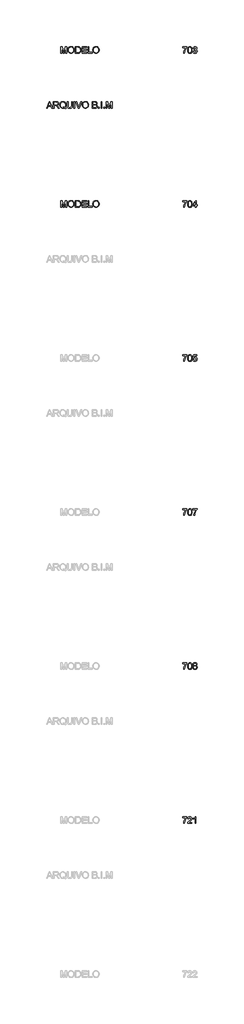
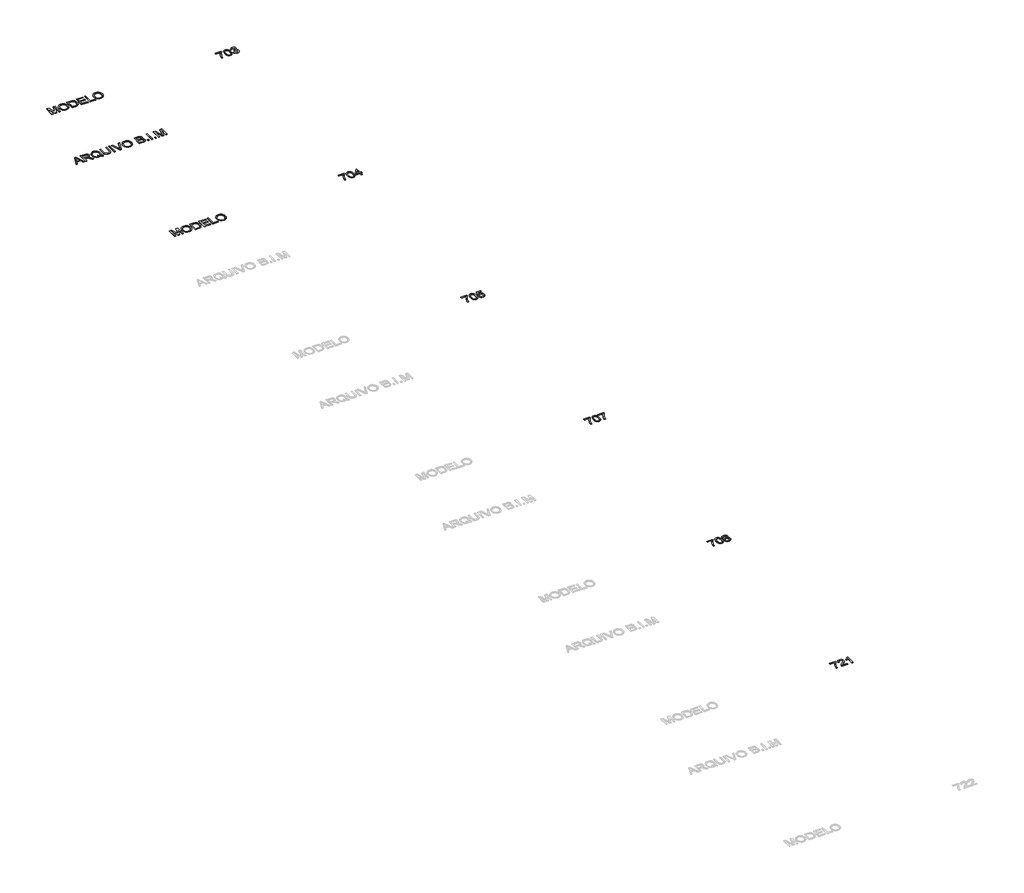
# One storey, part 18 of 19: 9 proxies.
"""IFC4 building model written with IfcOpenShell, lengths in millimetres."""

from ifc_helpers import new_model, si_unit, origin, origin_with_axes, place, context, project, spatial, polyline, outline, extrude, element, save

model = new_model("IFC4")

# Units and contexts
model_context = context("Model", 3, world=origin())
ifc_project = project(units=[si_unit("LENGTHUNIT", "METRE", prefix="MILLI")], contexts=[model_context])

# Site, building, storey
site = spatial("IfcSite", under=ifc_project)
building = spatial("IfcBuilding", under=site)
storey = spatial("IfcBuildingStorey", under=building, Name="Marelli - Linha ACTIVE - Planta Baixa", Elevation=0.0)

# Proxies
placement = place(None, origin())
element("IfcBuildingElementProxy", 1, Name="300mm Arial", ObjectType="300mm Arial", at=placement, inside=storey, context=model_context, shape_type="SweptSolid", body=[
    extrude(outline(polyline([(574.6453917, -25521.5773955), (574.6453917, -25483.9062792), (772.4187523, -25483.9062792), (772.4187523, -25514.3669084), (744.2297944, -25550.0422648), (716.316748, -25595.4113119), (691.6962455, -25646.3353771), (673.3849192, -25698.6757879), (664.4085985, -25737.8368263), (659.4054034, -25780.5663201), (621.7342871, -25780.5663201), (625.8085802, -25741.7363755), (636.7070843, -25695.5855792), (654.1354938, -25646.6664709), (677.7995031, -25599.5315902), (705.427441, -25556.9216582), (734.747636, -25521.5773955), (574.6453917, -25521.5773955)])), origin_with_axes(), (0.0, 0.0, 1.0), 10.0),
    extrude(outline(polyline([(998.4454501, -25742.8952038), (998.4454501, -25780.5663201), (800.6720895, -25780.5663201), (804.7187915, -25754.5938512), (814.0078118, -25734.2959621), (827.6010516, -25714.6050783), (847.2643442, -25693.9944896), (874.7635234, -25670.9374855), (915.4144838, -25634.8298677), (939.8050601, -25608.1768171), (952.0003482, -25586.5453558), (956.0654443, -25565.5025057), (952.2302745, -25546.6393564), (940.7247651, -25530.9583863), (923.0388382, -25520.390976), (900.6624158, -25516.8685059), (877.1639534, -25520.3082026), (858.9078094, -25530.6272925), (847.1263885, -25547.0164354), (843.0520954, -25568.6662908), (805.3809791, -25563.9574013), (814.5136496, -25527.5186897), (823.0600082, -25512.9827524), (834.2597157, -25500.9024273), (847.8552547, -25491.4064733), (863.5891077, -25484.623649), (901.4717562, -25479.1973896), (921.66158, -25480.7057058), (939.6303162, -25485.2306543), (955.3779648, -25492.7722352), (968.9045259, -25503.3304485), (979.7685411, -25516.1235449), (987.5285519, -25530.3697751), (992.1845584, -25546.0691393), (993.7365606, -25563.2216373), (992.0626975, -25581.238658), (987.0411083, -25598.942979), (978.1291669, -25616.9508027), (964.7842476, -25635.8783314), (943.5114712, -25658.4754829), (910.8159589, -25687.4921753), (867.4794598, -25723.7285518), (850.4833117, -25742.8952038), (998.4454501, -25742.8952038)])), origin_with_axes(), (0.0, 0.0, 1.0), 10.0),
    extrude(outline(polyline([(1177.3832526, -25780.5663201), (1139.7121363, -25780.5663201), (1139.7121363, -25545.7104543), (1104.0275827, -25571.1311002), (1064.3699037, -25590.1505994), (1064.3699037, -25554.5396222), (1093.9568131, -25538.4447849), (1119.5889911, -25519.2965271), (1139.7949097, -25498.9342587), (1153.1030409, -25479.1973896), (1177.3832526, -25479.1973896), (1177.3832526, -25780.5663201)])), origin_with_axes(), (0.0, 0.0, 1.0), 10.0),
])
element("IfcBuildingElementProxy", 2, Name="300mm Arial", ObjectType="300mm Arial", at=placement, inside=storey, context=model_context, shape_type="SweptSolid", body=[
    extrude(outline(polyline([(574.6453917, -18521.5773955), (574.6453917, -18483.9062792), (772.4187523, -18483.9062792), (772.4187523, -18514.3669084), (744.2297944, -18550.0422648), (716.316748, -18595.4113119), (691.6962455, -18646.3353771), (673.3849192, -18698.6757879), (664.4085985, -18737.8368263), (659.4054034, -18780.5663201), (621.7342871, -18780.5663201), (625.8085802, -18741.7363755), (636.7070843, -18695.5855792), (654.1354938, -18646.6664709), (677.7995031, -18599.5315902), (705.427441, -18556.9216582), (734.747636, -18521.5773955), (574.6453917, -18521.5773955)])), origin_with_axes(), (0.0, 0.0, 1.0), 10.0),
    extrude(outline(polyline([(805.3809791, -18632.309876), (808.1492911, -18584.0713494), (816.4542271, -18545.6000897), (830.2130137, -18516.3074859), (849.3428775, -18495.6049266), (873.9817741, -18483.2992739), (904.2676594, -18479.1973896), (927.4810133, -18481.6254108), (948.266346, -18488.9094743), (965.6487703, -18500.7644716), (978.6533988, -18516.9052941), (988.4758481, -18537.1939862), (996.3117346, -18561.4925919), (1001.4436884, -18592.3486943), (1003.1543397, -18632.309876), (1000.4136188, -18680.2724911), (992.1914562, -18718.6517803), (978.515443, -18747.9719753), (959.4131704, -18768.757308), (934.7190915, -18781.1457342), (904.2676594, -18785.2752096), (883.5191148, -18783.4817849), (865.1250151, -18778.1015107), (849.0853601, -18769.1343871), (835.4001499, -18756.580414), (822.2667626, -18733.8866934), (812.8857718, -18705.6103636), (807.2571772, -18671.7514244), (805.3809791, -18632.309876)]), holes=[polyline([(843.0520954, -18632.2362996), (847.4666793, -18691.492892), (852.9849092, -18711.7608907), (860.7104311, -18725.788691), (880.4289061, -18742.1502427), (904.2676594, -18747.6040933), (928.1064127, -18742.1318486), (947.8248876, -18725.7151146), (955.5504095, -18711.6643216), (961.0686394, -18691.4009215), (965.4832234, -18632.2362996), (961.2157922, -18574.3132795), (955.8815033, -18554.1119594), (948.4134988, -18539.750766), (928.731812, -18522.589071), (903.826201, -18516.8685059), (880.2449651, -18521.9084893), (861.2990423, -18537.0284393), (853.316003, -18552.6634241), (847.6138321, -18573.7430624), (843.0520954, -18632.2362996)])]), origin_with_axes(), (0.0, 0.0, 1.0), 10.0),
    extrude(outline(polyline([(1091.0045601, -18614.5779638), (1070.8354297, -18604.64515), (1056.68117, -18591.180669), (1048.3210516, -18574.4604323), (1045.5343455, -18554.7603514), (1047.0518587, -18539.3966796), (1051.6043984, -18525.3113977), (1059.1919646, -18512.5045058), (1069.8145572, -18500.9760037), (1082.96174, -18491.4478601), (1098.1230767, -18484.6420431), (1134.4882119, -18479.1973896), (1171.0740764, -18484.7708018), (1186.40096, -18491.7375671), (1199.7504779, -18501.4910385), (1210.5662086, -18513.2448683), (1218.2917304, -18526.2127086), (1222.9270436, -18540.3945595), (1224.472148, -18555.790421), (1221.7222301, -18574.8559054), (1213.4724763, -18591.2910335), (1199.6309162, -18604.6727411), (1180.1055793, -18614.5779638), (1203.2913421, -18626.5249316), (1220.1679286, -18644.1188881), (1230.4594274, -18666.5137045), (1233.889927, -18692.8632524), (1232.1884728, -18711.6528253), (1227.0841101, -18728.8788997), (1218.576839, -18744.5414757), (1206.6666594, -18758.6405532), (1191.9789707, -18770.2932154), (1175.1391724, -18778.6165455), (1156.1472644, -18783.6105436), (1135.0032467, -18785.2752096), (1113.8592291, -18783.6036458), (1094.8673211, -18778.5889543), (1078.0275227, -18770.2311353), (1063.3398341, -18758.5301886), (1051.4296545, -18744.3322428), (1042.9223833, -18728.4834266), (1037.8180207, -18710.9837399), (1036.1165664, -18691.8331828), (1039.6850218, -18664.4627624), (1050.3903879, -18641.9483843), (1067.6808416, -18625.0626007), (1091.0045601, -18614.5779638)]), holes=[polyline([(1083.2054618, -18555.8639974), (1086.5439909, -18572.3083226), (1096.5595782, -18585.4417098), (1112.9579182, -18594.0501485), (1135.4447051, -18596.9196281), (1157.4072602, -18594.0685426), (1173.5572798, -18585.5152862), (1183.4900937, -18572.8233574), (1186.8010317, -18557.5562546), (1183.3797291, -18541.7097376), (1173.1158214, -18528.6039416), (1156.7450727, -18519.8023648), (1135.0032467, -18516.8685059), (1113.1234651, -18519.7379855), (1096.7803074, -18528.3464242), (1086.5991732, -18540.9647766), (1083.2054618, -18555.8639974)]), polyline([(1073.7876827, -18690.5088076), (1080.0784649, -18718.8725095), (1088.7880711, -18731.0402065), (1102.3353256, -18740.0993006), (1118.5589216, -18745.7278951), (1135.2975523, -18747.6040933), (1160.9389274, -18743.6585589), (1180.1791557, -18731.8219557), (1192.208897, -18713.8969055), (1196.2188107, -18691.68603), (1192.0801383, -18669.0980755), (1179.664121, -18650.7775522), (1159.9824342, -18638.6374463), (1134.0467536, -18634.5907444), (1108.7640634, -18638.582264), (1089.7169731, -18650.556823), (1077.7700053, -18668.5278584), (1073.7876827, -18690.5088076)])]), origin_with_axes(), (0.0, 0.0, 1.0), 10.0),
])
element("IfcBuildingElementProxy", 3, Name="300mm Arial", ObjectType="300mm Arial", at=placement, inside=storey, context=model_context, shape_type="SweptSolid", body=[
    extrude(outline(polyline([(574.6453917, -11521.5773955), (574.6453917, -11483.9062792), (772.4187523, -11483.9062792), (772.4187523, -11514.3669084), (744.2297944, -11550.0422648), (716.316748, -11595.4113119), (691.6962455, -11646.3353771), (673.3849192, -11698.6757879), (664.4085985, -11737.8368263), (659.4054034, -11780.5663201), (621.7342871, -11780.5663201), (625.8085802, -11741.7363755), (636.7070843, -11695.5855792), (654.1354938, -11646.6664709), (677.7995031, -11599.5315902), (705.427441, -11556.9216582), (734.747636, -11521.5773955), (574.6453917, -11521.5773955)])), origin_with_axes(), (0.0, 0.0, 1.0), 10.0),
    extrude(outline(polyline([(805.3809791, -11632.309876), (808.1492911, -11584.0713494), (816.4542271, -11545.6000897), (830.2130137, -11516.3074859), (849.3428775, -11495.6049266), (873.9817741, -11483.2992739), (904.2676594, -11479.1973896), (927.4810133, -11481.6254108), (948.266346, -11488.9094743), (965.6487703, -11500.7644716), (978.6533988, -11516.9052941), (988.4758481, -11537.1939862), (996.3117346, -11561.4925919), (1001.4436884, -11592.3486943), (1003.1543397, -11632.309876), (1000.4136188, -11680.2724911), (992.1914562, -11718.6517803), (978.515443, -11747.9719753), (959.4131704, -11768.757308), (934.7190915, -11781.1457342), (904.2676594, -11785.2752096), (883.5191148, -11783.4817849), (865.1250151, -11778.1015107), (849.0853601, -11769.1343871), (835.4001499, -11756.580414), (822.2667626, -11733.8866934), (812.8857718, -11705.6103636), (807.2571772, -11671.7514244), (805.3809791, -11632.309876)]), holes=[polyline([(843.0520954, -11632.2362996), (847.4666793, -11691.492892), (852.9849092, -11711.7608907), (860.7104311, -11725.788691), (880.4289061, -11742.1502427), (904.2676594, -11747.6040933), (928.1064127, -11742.1318486), (947.8248876, -11725.7151146), (955.5504095, -11711.6643216), (961.0686394, -11691.4009215), (965.4832234, -11632.2362996), (961.2157922, -11574.3132795), (955.8815033, -11554.1119594), (948.4134988, -11539.750766), (928.731812, -11522.589071), (903.826201, -11516.8685059), (880.2449651, -11521.9084893), (861.2990423, -11537.0284393), (853.316003, -11552.6634241), (847.6138321, -11573.7430624), (843.0520954, -11632.2362996)])]), origin_with_axes(), (0.0, 0.0, 1.0), 10.0),
    extrude(outline(polyline([(1036.1165664, -11521.5773955), (1036.1165664, -11483.9062792), (1233.889927, -11483.9062792), (1233.889927, -11514.3669084), (1205.7009692, -11550.0422648), (1177.7879228, -11595.4113119), (1153.1674203, -11646.3353771), (1134.8560939, -11698.6757879), (1125.8797733, -11737.8368263), (1120.8765781, -11780.5663201), (1083.2054618, -11780.5663201), (1087.2797549, -11741.7363755), (1098.178259, -11695.5855792), (1115.6066685, -11646.6664709), (1139.2706779, -11599.5315902), (1166.8986157, -11556.9216582), (1196.2188107, -11521.5773955), (1036.1165664, -11521.5773955)])), origin_with_axes(), (0.0, 0.0, 1.0), 10.0),
])
element("IfcBuildingElementProxy", 4, Name="300mm Arial", ObjectType="300mm Arial", at=placement, inside=storey, context=model_context, shape_type="SweptSolid", body=[
    extrude(outline(polyline([(574.6453917, -4521.5773955), (574.6453917, -4483.9062792), (772.4187523, -4483.9062792), (772.4187523, -4514.3669084), (744.2297944, -4550.0422648), (716.316748, -4595.4113119), (691.6962455, -4646.3353771), (673.3849192, -4698.6757879), (664.4085985, -4737.8368263), (659.4054034, -4780.5663201), (621.7342871, -4780.5663201), (625.8085802, -4741.7363755), (636.7070843, -4695.5855792), (654.1354938, -4646.6664709), (677.7995031, -4599.5315902), (705.427441, -4556.9216582), (734.747636, -4521.5773955), (574.6453917, -4521.5773955)])), origin_with_axes(), (0.0, 0.0, 1.0), 10.0),
    extrude(outline(polyline([(805.3809791, -4632.309876), (808.1492911, -4584.0713494), (816.4542271, -4545.6000897), (830.2130137, -4516.3074859), (849.3428775, -4495.6049266), (873.9817741, -4483.2992739), (904.2676594, -4479.1973896), (927.4810133, -4481.6254108), (948.266346, -4488.9094743), (965.6487703, -4500.7644716), (978.6533988, -4516.9052941), (988.4758481, -4537.1939862), (996.3117346, -4561.4925919), (1001.4436884, -4592.3486943), (1003.1543397, -4632.309876), (1000.4136188, -4680.2724911), (992.1914562, -4718.6517803), (978.515443, -4747.9719753), (959.4131704, -4768.757308), (934.7190915, -4781.1457342), (904.2676594, -4785.2752096), (883.5191148, -4783.4817849), (865.1250151, -4778.1015107), (849.0853601, -4769.1343871), (835.4001499, -4756.580414), (822.2667626, -4733.8866934), (812.8857718, -4705.6103636), (807.2571772, -4671.7514244), (805.3809791, -4632.309876)]), holes=[polyline([(843.0520954, -4632.2362996), (847.4666793, -4691.492892), (852.9849092, -4711.7608907), (860.7104311, -4725.788691), (880.4289061, -4742.1502427), (904.2676594, -4747.6040933), (928.1064127, -4742.1318486), (947.8248876, -4725.7151146), (955.5504095, -4711.6643216), (961.0686394, -4691.4009215), (965.4832234, -4632.2362996), (961.2157922, -4574.3132795), (955.8815033, -4554.1119594), (948.4134988, -4539.750766), (928.731812, -4522.589071), (903.826201, -4516.8685059), (880.2449651, -4521.9084893), (861.2990423, -4537.0284393), (853.316003, -4552.6634241), (847.6138321, -4573.7430624), (843.0520954, -4632.2362996)])]), origin_with_axes(), (0.0, 0.0, 1.0), 10.0),
    extrude(outline(polyline([(1036.1165664, -4700.5151979), (1073.7876827, -4695.8063084), (1080.7038643, -4718.421854), (1092.7703937, -4734.6178589), (1109.9320888, -4744.3575347), (1132.1337672, -4747.6040933), (1159.1363056, -4743.0883418), (1179.3698154, -4729.5410873), (1192.0065619, -4708.5258284), (1196.2188107, -4681.6060634), (1192.2732763, -4656.2589939), (1180.4366731, -4636.8716128), (1160.6170307, -4624.56596), (1132.7223784, -4620.4640758), (1114.4478403, -4622.1011506), (1099.649787, -4627.0123753), (1078.4965723, -4644.0085235), (1040.825456, -4639.2996339), (1073.7876827, -4483.9062792), (1219.7632584, -4483.9062792), (1219.7632584, -4521.5773955), (1104.2483119, -4521.5773955), (1088.1350806, -4604.5715736), (1115.0456485, -4588.237613), (1143.2438034, -4582.7929595), (1161.5896187, -4584.4806181), (1178.4409133, -4589.5435941), (1193.7976874, -4597.9818873), (1207.6599408, -4609.7954979), (1219.1355598, -4624.2624574), (1227.3324305, -4640.6607973), (1232.2505529, -4658.9905177), (1233.889927, -4679.2516186), (1227.985421, -4716.9227349), (1220.6047885, -4733.716548), (1210.271903, -4749.1491977), (1194.6185241, -4764.9543279), (1176.353183, -4776.2437066), (1155.4758798, -4783.0173339), (1131.9866144, -4785.2752096), (1094.9868827, -4779.4718711), (1079.3082119, -4772.217698), (1065.5103379, -4762.0618557), (1054.0301203, -4749.5101819), (1045.3044193, -4735.0685143), (1036.1165664, -4700.5151979)])), origin_with_axes(), (0.0, 0.0, 1.0), 10.0),
])
element("IfcBuildingElementProxy", 5, Name="300mm Arial", ObjectType="300mm Arial", at=placement, inside=storey, context=model_context, shape_type="SweptSolid", body=[
    extrude(outline(polyline([(574.6453917, 2478.4226045), (574.6453917, 2516.0937208), (772.4187523, 2516.0937208), (772.4187523, 2485.6330916), (744.2297944, 2449.9577352), (716.316748, 2404.5886881), (691.6962455, 2353.6646229), (673.3849192, 2301.3242121), (664.4085985, 2262.1631737), (659.4054034, 2219.4336799), (621.7342871, 2219.4336799), (625.8085802, 2258.2636245), (636.7070843, 2304.4144208), (654.1354938, 2353.3335291), (677.7995031, 2400.4684098), (705.427441, 2443.0783418), (734.747636, 2478.4226045), (574.6453917, 2478.4226045)])), origin_with_axes(), (0.0, 0.0, 1.0), 10.0),
    extrude(outline(polyline([(805.3809791, 2367.690124), (808.1492911, 2415.9286506), (816.4542271, 2454.3999103), (830.2130137, 2483.6925141), (849.3428775, 2504.3950734), (873.9817741, 2516.7007261), (904.2676594, 2520.8026104), (927.4810133, 2518.3745892), (948.266346, 2511.0905257), (965.6487703, 2499.2355284), (978.6533988, 2483.0947059), (988.4758481, 2462.8060138), (996.3117346, 2438.5074081), (1001.4436884, 2407.6513057), (1003.1543397, 2367.690124), (1000.4136188, 2319.7275089), (992.1914562, 2281.3482197), (978.515443, 2252.0280247), (959.4131704, 2231.242692), (934.7190915, 2218.8542658), (904.2676594, 2214.7247904), (883.5191148, 2216.5182151), (865.1250151, 2221.8984893), (849.0853601, 2230.8656129), (835.4001499, 2243.419586), (822.2667626, 2266.1133066), (812.8857718, 2294.3896364), (807.2571772, 2328.2485756), (805.3809791, 2367.690124)]), holes=[polyline([(843.0520954, 2367.7637004), (847.4666793, 2308.507108), (852.9849092, 2288.2391093), (860.7104311, 2274.211309), (880.4289061, 2257.8497573), (904.2676594, 2252.3959067), (928.1064127, 2257.8681514), (947.8248876, 2274.2848854), (955.5504095, 2288.3356784), (961.0686394, 2308.5990785), (965.4832234, 2367.7637004), (961.2157922, 2425.6867205), (955.8815033, 2445.8880406), (948.4134988, 2460.249234), (928.731812, 2477.410929), (903.826201, 2483.1314941), (880.2449651, 2478.0915107), (861.2990423, 2462.9715607), (853.316003, 2447.3365759), (847.6138321, 2426.2569376), (843.0520954, 2367.7637004)])]), origin_with_axes(), (0.0, 0.0, 1.0), 10.0),
    extrude(outline(polyline([(1158.5476944, 2219.4336799), (1158.5476944, 2290.067023), (1021.9898978, 2290.067023), (1021.9898978, 2327.7381393), (1167.9654735, 2516.0937208), (1196.2188107, 2516.0937208), (1196.2188107, 2327.7381393), (1233.889927, 2327.7381393), (1233.889927, 2290.067023), (1196.2188107, 2290.067023), (1196.2188107, 2219.4336799), (1158.5476944, 2219.4336799)]), holes=[polyline([(1158.5476944, 2327.7381393), (1158.5476944, 2444.1360026), (1068.3430292, 2327.7381393), (1158.5476944, 2327.7381393)])]), origin_with_axes(), (0.0, 0.0, 1.0), 10.0),
])
element("IfcBuildingElementProxy", 6, Name="300mm Arial", ObjectType="300mm Arial", at=placement, inside=storey, context=model_context, shape_type="SweptSolid", body=[
    extrude(outline(polyline([(-4966.8769052, 2219.4336799), (-4966.8769052, 2520.8026104), (-4902.0560977, 2520.8026104), (-4840.3990753, 2308.3875464), (-4827.9646638, 2264.0209777), (-4814.5001828, 2312.0663663), (-4753.87323, 2520.8026104), (-4689.0524225, 2520.8026104), (-4689.0524225, 2219.4336799), (-4726.7235388, 2219.4336799), (-4726.7235388, 2483.1314941), (-4802.4336534, 2219.4336799), (-4853.4956743, 2219.4336799), (-4929.2057889, 2483.1314941), (-4929.2057889, 2219.4336799), (-4966.8769052, 2219.4336799)])), origin_with_axes(), (0.0, 0.0, 1.0), 10.0),
    extrude(outline(polyline([(-4637.2546375, 2366.1450196), (-4634.7438429, 2401.4938808), (-4627.2114591, 2432.786843), (-4614.657486, 2460.0239063), (-4597.0819237, 2483.2050705), (-4575.5378343, 2501.7141334), (-4551.0782802, 2514.9348926), (-4523.7032612, 2522.8673481), (-4493.4127774, 2525.5114999), (-4453.883857, 2520.545093), (-4418.4384268, 2505.6458722), (-4389.0078672, 2481.8623012), (-4367.5235587, 2450.2428437), (-4354.3901714, 2412.31421), (-4350.0123757, 2369.6031104), (-4354.6200977, 2326.3217936), (-4368.4432637, 2287.859731), (-4390.7185185, 2256.1850913), (-4420.682507, 2233.266043), (-4455.8244346, 2219.3601035), (-4493.6335066, 2214.7247904), (-4533.7694323, 2219.8475472), (-4569.4171976, 2235.2158175), (-4598.7741808, 2259.4408469), (-4620.0377602, 2291.1338808), (-4632.9504182, 2327.6001836), (-4637.2546375, 2366.1450196)]), holes=[polyline([(-4599.5835212, 2365.7771376), (-4597.7004253, 2340.8025487), (-4592.0511374, 2318.6330599), (-4582.6356576, 2299.2686714), (-4569.4539858, 2282.7093831), (-4553.4304257, 2269.4472372), (-4535.4892806, 2259.9742758), (-4515.6305507, 2254.290499), (-4493.8542358, 2252.3959067), (-4471.7054404, 2254.3088931), (-4451.6121857, 2260.0478522), (-4433.5744716, 2269.6127841), (-4417.5922982, 2283.0036887), (-4404.5071955, 2299.9124649), (-4395.1606936, 2320.0310115), (-4389.5527924, 2343.3593285), (-4387.683492, 2369.897416), (-4390.8840654, 2403.2459188), (-4400.4857854, 2432.0694731), (-4416.2403319, 2455.641512), (-4437.8993843, 2473.2354684), (-4464.0282031, 2484.1891548), (-4493.1920482, 2487.8403836), (-4514.2119057, 2486.0814478), (-4533.71425, 2480.8046405), (-4551.699081, 2472.0099615), (-4568.1663988, 2459.697411), (-4581.9113899, 2443.2737792), (-4591.7292406, 2422.1458563), (-4597.6199511, 2396.3136425), (-4599.5835212, 2365.7771376)])]), origin_with_axes(), (0.0, 0.0, 1.0), 10.0),
    extrude(outline(polyline([(-4298.2145908, 2219.4336799), (-4298.2145908, 2520.8026104), (-4194.2511389, 2520.8026104), (-4140.4667912, 2516.4616028), (-4116.444097, 2508.0922874), (-4096.173799, 2494.9037179), (-4075.333284, 2471.9478814), (-4060.4892455, 2443.4002386), (-4051.6048953, 2409.8126124), (-4048.6434453, 2371.7368259), (-4050.6484021, 2339.3908015), (-4056.6632727, 2310.9259321), (-4065.8235344, 2286.6917057), (-4077.2646645, 2267.0376101), (-4090.4348399, 2251.522187), (-4104.7822377, 2239.7039779), (-4121.254154, 2230.9391893), (-4140.797885, 2224.5840279), (-4189.2479438, 2219.4336799), (-4298.2145908, 2219.4336799)]), holes=[polyline([(-4260.5434745, 2257.1047962), (-4193.8832569, 2257.1047962), (-4166.3105014, 2258.4659596), (-4145.39641, 2262.5494498), (-4129.6142724, 2269.1161434), (-4117.4373783, 2277.9269172), (-4104.3499764, 2294.2332866), (-4094.51833, 2315.3405161), (-4088.3655037, 2341.3405761), (-4086.3145616, 2372.3254371), (-4090.3336724, 2413.3810678), (-4102.3910047, 2443.6945442), (-4120.2056904, 2464.5166651), (-4141.4968608, 2477.0982294), (-4163.1651103, 2481.6231779), (-4194.9133265, 2483.1314941), (-4260.5434745, 2483.1314941), (-4260.5434745, 2257.1047962)])]), origin_with_axes(), (0.0, 0.0, 1.0), 10.0),
    extrude(outline(polyline([(-3996.8456603, 2219.4336799), (-3996.8456603, 2520.8026104), (-3780.2367416, 2520.8026104), (-3780.2367416, 2483.1314941), (-3959.174544, 2483.1314941), (-3959.174544, 2393.6625928), (-3789.6545206, 2393.6625928), (-3789.6545206, 2355.9914765), (-3959.174544, 2355.9914765), (-3959.174544, 2257.1047962), (-3775.527852, 2257.1047962), (-3775.527852, 2219.4336799), (-3996.8456603, 2219.4336799)])), origin_with_axes(), (0.0, 0.0, 1.0), 10.0),
    extrude(outline(polyline([(-3719.0211776, 2219.4336799), (-3719.0211776, 2520.8026104), (-3681.3500613, 2520.8026104), (-3681.3500613, 2257.1047962), (-3530.665596, 2257.1047962), (-3530.665596, 2219.4336799), (-3719.0211776, 2219.4336799)])), origin_with_axes(), (0.0, 0.0, 1.0), 10.0),
    extrude(outline(polyline([(-3502.4122588, 2366.1450196), (-3499.9014642, 2401.4938808), (-3492.3690803, 2432.786843), (-3479.8151073, 2460.0239063), (-3462.2395449, 2483.2050705), (-3440.6954556, 2501.7141334), (-3416.2359014, 2514.9348926), (-3388.8608825, 2522.8673481), (-3358.5703987, 2525.5114999), (-3319.0414783, 2520.545093), (-3283.5960481, 2505.6458722), (-3254.1654885, 2481.8623012), (-3232.6811799, 2450.2428437), (-3219.5477927, 2412.31421), (-3215.169997, 2369.6031104), (-3219.777719, 2326.3217936), (-3233.6008849, 2287.859731), (-3255.8761397, 2256.1850913), (-3285.8401283, 2233.266043), (-3320.9820558, 2219.3601035), (-3358.7911279, 2214.7247904), (-3398.9270536, 2219.8475472), (-3434.5748189, 2235.2158175), (-3463.9318021, 2259.4408469), (-3485.1953814, 2291.1338808), (-3498.1080395, 2327.6001836), (-3502.4122588, 2366.1450196)]), holes=[polyline([(-3464.7411425, 2365.7771376), (-3462.8580465, 2340.8025487), (-3457.2087587, 2318.6330599), (-3447.7932788, 2299.2686714), (-3434.6116071, 2282.7093831), (-3418.5880469, 2269.4472372), (-3400.6469019, 2259.9742758), (-3380.7881719, 2254.290499), (-3359.0118571, 2252.3959067), (-3336.8630617, 2254.3088931), (-3316.769807, 2260.0478522), (-3298.7320929, 2269.6127841), (-3282.7499195, 2283.0036887), (-3269.6648168, 2299.9124649), (-3260.3183148, 2320.0310115), (-3254.7104137, 2343.3593285), (-3252.8411133, 2369.897416), (-3256.0416866, 2403.2459188), (-3265.6434067, 2432.0694731), (-3281.3979532, 2455.641512), (-3303.0570056, 2473.2354684), (-3329.1858243, 2484.1891548), (-3358.3496695, 2487.8403836), (-3379.369527, 2486.0814478), (-3398.8718713, 2480.8046405), (-3416.8567023, 2472.0099615), (-3433.3240201, 2459.697411), (-3447.0690112, 2443.2737792), (-3456.8868619, 2422.1458563), (-3462.7775724, 2396.3136425), (-3464.7411425, 2365.7771376)])]), origin_with_axes(), (0.0, 0.0, 1.0), 10.0),
])
element("IfcBuildingElementProxy", 7, Name="300mm Arial", ObjectType="300mm Arial", at=placement, inside=storey, context=model_context, shape_type="SweptSolid", body=[
    extrude(outline(polyline([(-5609.419598, 6719.4336799), (-5489.1221856, 7020.8026104), (-5457.0428756, 7020.8026104), (-5336.7454632, 6719.4336799), (-5376.550295, 6719.4336799), (-5411.0576262, 6813.6114707), (-5535.1810114, 6813.6114707), (-5569.6147661, 6719.4336799), (-5609.419598, 6719.4336799)]), holes=[polyline([(-5521.3486483, 6851.282587), (-5424.8164128, 6851.282587), (-5451.9661041, 6925.3740208), (-5473.0825306, 6983.1314941), (-5491.8445123, 6931.8487439), (-5521.3486483, 6851.282587)])]), origin_with_axes(), (0.0, 0.0, 1.0), 10.0),
    extrude(outline(polyline([(-5296.4991729, 6719.4336799), (-5296.4991729, 7020.8026104), (-5166.6368286, 7020.8026104), (-5131.7340243, 7018.7700624), (-5106.3409696, 7012.6724183), (-5087.7813229, 7001.4152292), (-5073.3787428, 6983.9040463), (-5064.1357077, 6962.1898115), (-5061.054696, 6938.3234671), (-5066.1590587, 6908.6353901), (-5081.4721467, 6884.0240846), (-5093.0719259, 6873.9947017), (-5107.4538126, 6865.9794727), (-5144.5639089, 6855.9914765), (-5123.1531768, 6839.8782452), (-5092.6189712, 6801.1034829), (-5042.3662906, 6719.4336799), (-5086.144248, 6719.4336799), (-5125.3604687, 6781.9000427), (-5153.6873824, 6823.249979), (-5173.5897983, 6842.7845129), (-5191.5056515, 6849.9582118), (-5213.357842, 6851.282587), (-5258.8280566, 6851.282587), (-5258.8280566, 6719.4336799), (-5296.4991729, 6719.4336799)]), holes=[polyline([(-5258.8280566, 6888.9537033), (-5174.5095033, 6888.9537033), (-5150.293671, 6890.2872755), (-5131.5040981, 6894.2879922), (-5117.3590353, 6901.2225678), (-5107.0767336, 6911.3577168), (-5100.8135426, 6923.6173843), (-5098.7258123, 6936.9255155), (-5102.7081349, 6955.3012211), (-5114.6551027, 6970.1084714), (-5135.2105092, 6979.8757384), (-5165.0181478, 6983.1314941), (-5258.8280566, 6983.1314941), (-5258.8280566, 6888.9537033)])]), origin_with_axes(), (0.0, 0.0, 1.0), 10.0),
    extrude(outline(polyline([(-4768.7356626, 6755.5596919), (-4744.4002686, 6736.963257), (-4722.0146492, 6724.1425695), (-4732.1681923, 6696.5514198), (-4763.2358268, 6710.9539999), (-4794.1930967, 6731.794515), (-4829.0499157, 6718.9922215), (-4867.4016137, 6714.7247904), (-4905.9372527, 6719.6452121), (-4940.7572836, 6734.4064771), (-4969.9211287, 6758.0796835), (-4991.4882107, 6789.7359292), (-5004.814736, 6827.6369718), (-5009.2569111, 6870.0445688), (-5004.823933, 6912.488954), (-4991.5249989, 6950.9418195), (-4970.0406904, 6983.0487206), (-4941.0515892, 7006.4552126), (-4906.360317, 7020.7474281), (-4867.7694957, 7025.5114999), (-4828.8751718, 7020.6370635), (-4794.0091557, 7006.0137542), (-4765.0660397, 6982.6164593), (-4743.9404161, 6951.4200661), (-4731.0277581, 6914.0800436), (-4726.7235388, 6872.2518607), (-4729.3355009, 6837.4686181), (-4737.1713874, 6806.4009836), (-4750.2863806, 6779.0857454), (-4768.7356626, 6755.5596919)]), holes=[polyline([(-4857.0273415, 6805.6652196), (-4825.3527017, 6793.6906607), (-4799.784903, 6777.0440004), (-4784.3016695, 6794.5183951), (-4773.2422171, 6815.8923391), (-4766.6065456, 6841.1658321), (-4764.3946551, 6870.3388744), (-4767.521652, 6903.4942392), (-4776.9026429, 6932.1798377), (-4792.3077015, 6955.6691031), (-4813.5069014, 6973.2354684), (-4839.065503, 6984.1891548), (-4867.5487665, 6987.8403836), (-4889.033075, 6985.9940758), (-4908.6043972, 6980.4551526), (-4926.2627329, 6971.2236137), (-4942.0080823, 6958.2994594), (-4954.9483315, 6941.7102807), (-4964.1913666, 6921.4836687), (-4969.7371877, 6897.6196236), (-4971.5857948, 6870.1181452), (-4969.7578811, 6843.3340366), (-4964.2741401, 6819.8562676), (-4955.1345718, 6799.6848379), (-4942.3391761, 6782.8197477), (-4926.7018921, 6769.5093173), (-4909.0366585, 6760.0018669), (-4889.3434755, 6754.2973968), (-4867.6223429, 6752.3959067), (-4846.7082515, 6754.3272872), (-4827.081747, 6760.1214286), (-4846.3771577, 6770.146213), (-4866.7394261, 6776.8232712), (-4857.0273415, 6805.6652196)])]), origin_with_axes(), (0.0, 0.0, 1.0), 10.0),
    extrude(outline(polyline([(-4472.4435037, 7020.8026104), (-4434.7723874, 7020.8026104), (-4434.7723874, 6846.9415795), (-4437.3291673, 6806.2262396), (-4444.9995069, 6774.8734966), (-4459.3285106, 6750.6852554), (-4481.8612828, 6731.4634212), (-4512.6530058, 6718.9094481), (-4551.7588619, 6714.7247904), (-4590.0093923, 6718.3668221), (-4620.5895832, 6729.2929174), (-4643.5086315, 6747.1259971), (-4658.7757343, 6771.4889822), (-4667.3565818, 6804.1661005), (-4670.2168643, 6846.9415795), (-4670.2168643, 7020.8026104), (-4632.545748, 7020.8026104), (-4632.545748, 6848.2659546), (-4630.6879439, 6814.411614), (-4625.1145317, 6790.8395752), (-4615.0161709, 6774.5148117), (-4599.5835212, 6762.402297), (-4579.4603761, 6754.8975043), (-4555.290529, 6752.3959067), (-4516.9756192, 6757.3439195), (-4502.6328199, 6763.5289356), (-4491.499791, 6772.187958), (-4483.1626653, 6784.3648521), (-4477.2075755, 6801.1034829), (-4472.4435037, 6848.2659546), (-4472.4435037, 7020.8026104)])), origin_with_axes(), (0.0, 0.0, 1.0), 10.0),
    extrude(outline(polyline([(-4364.1390443, 6719.4336799), (-4364.1390443, 7020.8026104), (-4326.467928, 7020.8026104), (-4326.467928, 6719.4336799), (-4364.1390443, 6719.4336799)])), origin_with_axes(), (0.0, 0.0, 1.0), 10.0),
    extrude(outline(polyline([(-4162.0982526, 6719.4336799), (-4282.027783, 7020.8026104), (-4241.7079163, 7020.8026104), (-4161.436065, 6803.6786568), (-4145.1756808, 6754.7503515), (-4129.1360258, 6803.6786568), (-4048.6434453, 7020.8026104), (-4008.3235786, 7020.8026104), (-4123.1763375, 6719.4336799), (-4162.0982526, 6719.4336799)])), origin_with_axes(), (0.0, 0.0, 1.0), 10.0),
    extrude(outline(polyline([(-3987.4278813, 6866.1450196), (-3984.9170866, 6901.4938808), (-3977.3847028, 6932.786843), (-3964.8307297, 6960.0239063), (-3947.2551674, 6983.2050705), (-3925.711078, 7001.7141334), (-3901.2515239, 7014.9348926), (-3873.8765049, 7022.8673481), (-3843.5860211, 7025.5114999), (-3804.0571008, 7020.545093), (-3768.6116705, 7005.6458722), (-3739.1811109, 6981.8623012), (-3717.6968024, 6950.2428437), (-3704.5634152, 6912.31421), (-3700.1856194, 6869.6031104), (-3704.7933414, 6826.3217936), (-3718.6165074, 6787.859731), (-3740.8917622, 6756.1850913), (-3770.8557507, 6733.266043), (-3805.9976783, 6719.3601035), (-3843.8067503, 6714.7247904), (-3883.942676, 6719.8475472), (-3919.5904413, 6735.2158175), (-3948.9474246, 6759.4408469), (-3970.2110039, 6791.1338808), (-3983.1236619, 6827.6001836), (-3987.4278813, 6866.1450196)]), holes=[polyline([(-3949.7567649, 6865.7771376), (-3947.873669, 6840.8025487), (-3942.2243811, 6818.6330599), (-3932.8089013, 6799.2686714), (-3919.6272295, 6782.7093831), (-3903.6036694, 6769.4472372), (-3885.6625243, 6759.9742758), (-3865.8037944, 6754.290499), (-3844.0274795, 6752.3959067), (-3821.8786842, 6754.3088931), (-3801.7854294, 6760.0478522), (-3783.7477154, 6769.6127841), (-3767.7655419, 6783.0036887), (-3754.6804392, 6799.9124649), (-3745.3339373, 6820.0310115), (-3739.7260361, 6843.3593285), (-3737.8567357, 6869.897416), (-3741.0573091, 6903.2459188), (-3750.6590292, 6932.0694731), (-3766.4135756, 6955.641512), (-3788.0726281, 6973.2354684), (-3814.2014468, 6984.1891548), (-3843.3652919, 6987.8403836), (-3864.3851494, 6986.0814478), (-3883.8874937, 6980.8046405), (-3901.8723248, 6972.0099615), (-3918.3396426, 6959.697411), (-3932.0846336, 6943.2737792), (-3941.9024844, 6922.1458563), (-3947.7931948, 6896.3136425), (-3949.7567649, 6865.7771376)])]), origin_with_axes(), (0.0, 0.0, 1.0), 10.0),
    extrude(outline(polyline([(-3530.665596, 6719.4336799), (-3530.665596, 7020.8026104), (-3415.6656844, 7020.8026104), (-3384.0370298, 7018.5861214), (-3359.3429509, 7011.9366543), (-3340.4154222, 7000.6886623), (-3326.0864185, 6984.6765985), (-3317.0641126, 6965.8410403), (-3314.0566773, 6946.1225654), (-3316.585866, 6927.9767859), (-3324.1734321, 6910.9162584), (-3336.874558, 6895.9894465), (-3354.7444259, 6884.2448138), (-3333.3980732, 6873.0979893), (-3317.6251326, 6856.1386293), (-3307.8854568, 6834.4887739), (-3304.6388982, 6809.2704632), (-3306.8553872, 6788.2552042), (-3313.5048543, 6768.7666555), (-3323.4284711, 6752.1935716), (-3335.4674094, 6739.9247071), (-3350.2102804, 6731.0403569), (-3368.2456952, 6724.6208161), (-3416.5486011, 6719.4336799), (-3530.665596, 6719.4336799)]), holes=[polyline([(-3492.9944797, 6898.3714824), (-3424.2005466, 6898.3714824), (-3384.0278328, 6901.6088439), (-3369.9655435, 6907.1914532), (-3359.8579857, 6915.5515716), (-3353.7603416, 6926.5604403), (-3351.7277936, 6940.0893006), (-3353.6223859, 6953.2226879), (-3359.3061627, 6964.6638179), (-3368.5216067, 6973.5941533), (-3381.0112004, 6979.1951567), (-3429.424471, 6983.1314941), (-3492.9944797, 6983.1314941), (-3492.9944797, 6898.3714824)]), polyline([(-3492.9944797, 6757.1047962), (-3415.7392607, 6757.1047962), (-3387.7802291, 6758.5763242), (-3364.1254168, 6766.7800927), (-3348.4536438, 6783.5187235), (-3343.8459218, 6795.3461296), (-3342.3100145, 6808.9025812), (-3344.1126363, 6824.6479306), (-3349.5205016, 6838.185988), (-3358.9658718, 6848.7717924), (-3372.8810083, 6855.6603827), (-3392.5902862, 6859.4403702), (-3419.4180807, 6860.7003661), (-3492.9944797, 6860.7003661), (-3492.9944797, 6757.1047962)])]), origin_with_axes(), (0.0, 0.0, 1.0), 10.0),
    extrude(outline(polyline([(-3248.1322237, 6719.4336799), (-3248.1322237, 6757.1047962), (-3210.4611074, 6757.1047962), (-3210.4611074, 6719.4336799), (-3248.1322237, 6719.4336799)])), origin_with_axes(), (0.0, 0.0, 1.0), 10.0),
    extrude(outline(polyline([(-3130.4099853, 6719.4336799), (-3130.4099853, 7020.8026104), (-3092.738869, 7020.8026104), (-3092.738869, 6719.4336799), (-3130.4099853, 6719.4336799)])), origin_with_axes(), (0.0, 0.0, 1.0), 10.0),
    extrude(outline(polyline([(-3012.6877468, 6719.4336799), (-3012.6877468, 6757.1047962), (-2975.0166305, 6757.1047962), (-2975.0166305, 6719.4336799), (-3012.6877468, 6719.4336799)])), origin_with_axes(), (0.0, 0.0, 1.0), 10.0),
    extrude(outline(polyline([(-2899.6743979, 6719.4336799), (-2899.6743979, 7020.8026104), (-2834.8535904, 7020.8026104), (-2773.196568, 6808.3875464), (-2760.7621565, 6764.0209777), (-2747.2976755, 6812.0663663), (-2686.6707227, 7020.8026104), (-2621.8499152, 7020.8026104), (-2621.8499152, 6719.4336799), (-2659.5210315, 6719.4336799), (-2659.5210315, 6983.1314941), (-2735.2311461, 6719.4336799), (-2786.293167, 6719.4336799), (-2862.0032816, 6983.1314941), (-2862.0032816, 6719.4336799), (-2899.6743979, 6719.4336799)])), origin_with_axes(), (0.0, 0.0, 1.0), 10.0),
])
element("IfcBuildingElementProxy", 8, Name="300mm Arial", ObjectType="300mm Arial", at=placement, inside=storey, context=model_context, shape_type="SweptSolid", body=[
    extrude(outline(polyline([(574.6453917, 9478.4226045), (574.6453917, 9516.0937208), (772.4187523, 9516.0937208), (772.4187523, 9485.6330916), (744.2297944, 9449.9577352), (716.316748, 9404.5886881), (691.6962455, 9353.6646229), (673.3849192, 9301.3242121), (664.4085985, 9262.1631737), (659.4054034, 9219.4336799), (621.7342871, 9219.4336799), (625.8085802, 9258.2636245), (636.7070843, 9304.4144208), (654.1354938, 9353.3335291), (677.7995031, 9400.4684098), (705.427441, 9443.0783418), (734.747636, 9478.4226045), (574.6453917, 9478.4226045)])), origin_with_axes(), (0.0, 0.0, 1.0), 10.0),
    extrude(outline(polyline([(805.3809791, 9367.690124), (808.1492911, 9415.9286506), (816.4542271, 9454.3999103), (830.2130137, 9483.6925141), (849.3428775, 9504.3950734), (873.9817741, 9516.7007261), (904.2676594, 9520.8026104), (927.4810133, 9518.3745892), (948.266346, 9511.0905257), (965.6487703, 9499.2355284), (978.6533988, 9483.0947059), (988.4758481, 9462.8060138), (996.3117346, 9438.5074081), (1001.4436884, 9407.6513057), (1003.1543397, 9367.690124), (1000.4136188, 9319.7275089), (992.1914562, 9281.3482197), (978.515443, 9252.0280247), (959.4131704, 9231.242692), (934.7190915, 9218.8542658), (904.2676594, 9214.7247904), (883.5191148, 9216.5182151), (865.1250151, 9221.8984893), (849.0853601, 9230.8656129), (835.4001499, 9243.419586), (822.2667626, 9266.1133066), (812.8857718, 9294.3896364), (807.2571772, 9328.2485756), (805.3809791, 9367.690124)]), holes=[polyline([(843.0520954, 9367.7637004), (847.4666793, 9308.507108), (852.9849092, 9288.2391093), (860.7104311, 9274.211309), (880.4289061, 9257.8497573), (904.2676594, 9252.3959067), (928.1064127, 9257.8681514), (947.8248876, 9274.2848854), (955.5504095, 9288.3356784), (961.0686394, 9308.5990785), (965.4832234, 9367.7637004), (961.2157922, 9425.6867205), (955.8815033, 9445.8880406), (948.4134988, 9460.249234), (928.731812, 9477.410929), (903.826201, 9483.1314941), (880.2449651, 9478.0915107), (861.2990423, 9462.9715607), (853.316003, 9447.3365759), (847.6138321, 9426.2569376), (843.0520954, 9367.7637004)])]), origin_with_axes(), (0.0, 0.0, 1.0), 10.0),
    extrude(outline(polyline([(1036.1165664, 9299.4848021), (1073.7876827, 9304.1936916), (1082.2213775, 9280.5204852), (1094.5730155, 9264.5360125), (1111.449602, 9255.4309332), (1133.4581424, 9252.3959067), (1159.2834584, 9256.5713673), (1179.2226626, 9269.0977493), (1191.9697737, 9287.7861546), (1196.2188107, 9310.4476855), (1192.0065619, 9331.9595852), (1179.3698154, 9349.4063888), (1160.2399516, 9360.9670805), (1136.5483511, 9364.8206444), (1110.1344239, 9360.7003661), (1114.3282786, 9398.3714824), (1120.3615433, 9397.930024), (1142.9311037, 9400.6339567), (1163.1094312, 9408.7457546), (1177.3464644, 9422.4677531), (1182.0921421, 9442.002287), (1178.6524455, 9458.2718683), (1168.3333555, 9471.4696348), (1152.5880061, 9480.2160293), (1132.8695312, 9483.1314941), (1113.114268, 9480.1884381), (1096.9642484, 9471.3592702), (1085.1736305, 9456.6439904), (1078.4965723, 9436.0425987), (1040.825456, 9440.7514882), (1051.9170981, 9474.5782377), (1071.6539672, 9499.8333367), (1098.6565056, 9515.5602919), (1131.545156, 9520.8026104), (1155.2275594, 9518.2182394), (1176.9785824, 9510.4651263), (1195.3174999, 9498.23305), (1208.7635868, 9482.2117891), (1217.0133405, 9463.75331), (1219.7632584, 9444.209579), (1217.1512963, 9425.9994202), (1209.3154098, 9409.4815186), (1196.3659635, 9395.4100323), (1178.4133222, 9384.5391194), (1201.9945581, 9375.0109757), (1219.4689528, 9358.7873797), (1230.2846835, 9336.7512482), (1233.889927, 9309.7854979), (1232.0873053, 9290.6740283), (1226.6794399, 9273.0708748), (1217.6663311, 9256.9760375), (1205.0479786, 9242.3895164), (1189.6751097, 9230.2861988), (1172.3984516, 9221.6409719), (1153.218004, 9216.4538358), (1132.1337672, 9214.7247904), (1113.0774798, 9216.2009169), (1095.7134497, 9220.6292964), (1080.0416767, 9228.0099289), (1066.0621608, 9238.3428145), (1054.3405208, 9251.0209477), (1045.442375, 9265.4373234), (1039.3677236, 9281.5919415), (1036.1165664, 9299.4848021)])), origin_with_axes(), (0.0, 0.0, 1.0), 10.0),
])
element("IfcBuildingElementProxy", 9, Name="300mm Arial", ObjectType="300mm Arial", at=placement, inside=storey, context=model_context, shape_type="SweptSolid", body=[
    extrude(outline(polyline([(-4966.8769052, 9219.4336799), (-4966.8769052, 9520.8026104), (-4902.0560977, 9520.8026104), (-4840.3990753, 9308.3875464), (-4827.9646638, 9264.0209777), (-4814.5001828, 9312.0663663), (-4753.87323, 9520.8026104), (-4689.0524225, 9520.8026104), (-4689.0524225, 9219.4336799), (-4726.7235388, 9219.4336799), (-4726.7235388, 9483.1314941), (-4802.4336534, 9219.4336799), (-4853.4956743, 9219.4336799), (-4929.2057889, 9483.1314941), (-4929.2057889, 9219.4336799), (-4966.8769052, 9219.4336799)])), origin_with_axes(), (0.0, 0.0, 1.0), 10.0),
    extrude(outline(polyline([(-4637.2546375, 9366.1450196), (-4634.7438429, 9401.4938808), (-4627.2114591, 9432.786843), (-4614.657486, 9460.0239063), (-4597.0819237, 9483.2050705), (-4575.5378343, 9501.7141334), (-4551.0782802, 9514.9348926), (-4523.7032612, 9522.8673481), (-4493.4127774, 9525.5114999), (-4453.883857, 9520.545093), (-4418.4384268, 9505.6458722), (-4389.0078672, 9481.8623012), (-4367.5235587, 9450.2428437), (-4354.3901714, 9412.31421), (-4350.0123757, 9369.6031104), (-4354.6200977, 9326.3217936), (-4368.4432637, 9287.859731), (-4390.7185185, 9256.1850913), (-4420.682507, 9233.266043), (-4455.8244346, 9219.3601035), (-4493.6335066, 9214.7247904), (-4533.7694323, 9219.8475472), (-4569.4171976, 9235.2158175), (-4598.7741808, 9259.4408469), (-4620.0377602, 9291.1338808), (-4632.9504182, 9327.6001836), (-4637.2546375, 9366.1450196)]), holes=[polyline([(-4599.5835212, 9365.7771376), (-4597.7004253, 9340.8025487), (-4592.0511374, 9318.6330599), (-4582.6356576, 9299.2686714), (-4569.4539858, 9282.7093831), (-4553.4304257, 9269.4472372), (-4535.4892806, 9259.9742758), (-4515.6305507, 9254.290499), (-4493.8542358, 9252.3959067), (-4471.7054404, 9254.3088931), (-4451.6121857, 9260.0478522), (-4433.5744716, 9269.6127841), (-4417.5922982, 9283.0036887), (-4404.5071955, 9299.9124649), (-4395.1606936, 9320.0310115), (-4389.5527924, 9343.3593285), (-4387.683492, 9369.897416), (-4390.8840654, 9403.2459188), (-4400.4857854, 9432.0694731), (-4416.2403319, 9455.641512), (-4437.8993843, 9473.2354684), (-4464.0282031, 9484.1891548), (-4493.1920482, 9487.8403836), (-4514.2119057, 9486.0814478), (-4533.71425, 9480.8046405), (-4551.699081, 9472.0099615), (-4568.1663988, 9459.697411), (-4581.9113899, 9443.2737792), (-4591.7292406, 9422.1458563), (-4597.6199511, 9396.3136425), (-4599.5835212, 9365.7771376)])]), origin_with_axes(), (0.0, 0.0, 1.0), 10.0),
    extrude(outline(polyline([(-4298.2145908, 9219.4336799), (-4298.2145908, 9520.8026104), (-4194.2511389, 9520.8026104), (-4140.4667912, 9516.4616028), (-4116.444097, 9508.0922874), (-4096.173799, 9494.9037179), (-4075.333284, 9471.9478814), (-4060.4892455, 9443.4002386), (-4051.6048953, 9409.8126124), (-4048.6434453, 9371.7368259), (-4050.6484021, 9339.3908015), (-4056.6632727, 9310.9259321), (-4065.8235344, 9286.6917057), (-4077.2646645, 9267.0376101), (-4090.4348399, 9251.522187), (-4104.7822377, 9239.7039779), (-4121.254154, 9230.9391893), (-4140.797885, 9224.5840279), (-4189.2479438, 9219.4336799), (-4298.2145908, 9219.4336799)]), holes=[polyline([(-4260.5434745, 9257.1047962), (-4193.8832569, 9257.1047962), (-4166.3105014, 9258.4659596), (-4145.39641, 9262.5494498), (-4129.6142724, 9269.1161434), (-4117.4373783, 9277.9269172), (-4104.3499764, 9294.2332866), (-4094.51833, 9315.3405161), (-4088.3655037, 9341.3405761), (-4086.3145616, 9372.3254371), (-4090.3336724, 9413.3810678), (-4102.3910047, 9443.6945442), (-4120.2056904, 9464.5166651), (-4141.4968608, 9477.0982294), (-4163.1651103, 9481.6231779), (-4194.9133265, 9483.1314941), (-4260.5434745, 9483.1314941), (-4260.5434745, 9257.1047962)])]), origin_with_axes(), (0.0, 0.0, 1.0), 10.0),
    extrude(outline(polyline([(-3996.8456603, 9219.4336799), (-3996.8456603, 9520.8026104), (-3780.2367416, 9520.8026104), (-3780.2367416, 9483.1314941), (-3959.174544, 9483.1314941), (-3959.174544, 9393.6625928), (-3789.6545206, 9393.6625928), (-3789.6545206, 9355.9914765), (-3959.174544, 9355.9914765), (-3959.174544, 9257.1047962), (-3775.527852, 9257.1047962), (-3775.527852, 9219.4336799), (-3996.8456603, 9219.4336799)])), origin_with_axes(), (0.0, 0.0, 1.0), 10.0),
    extrude(outline(polyline([(-3719.0211776, 9219.4336799), (-3719.0211776, 9520.8026104), (-3681.3500613, 9520.8026104), (-3681.3500613, 9257.1047962), (-3530.665596, 9257.1047962), (-3530.665596, 9219.4336799), (-3719.0211776, 9219.4336799)])), origin_with_axes(), (0.0, 0.0, 1.0), 10.0),
    extrude(outline(polyline([(-3502.4122588, 9366.1450196), (-3499.9014642, 9401.4938808), (-3492.3690803, 9432.786843), (-3479.8151073, 9460.0239063), (-3462.2395449, 9483.2050705), (-3440.6954556, 9501.7141334), (-3416.2359014, 9514.9348926), (-3388.8608825, 9522.8673481), (-3358.5703987, 9525.5114999), (-3319.0414783, 9520.545093), (-3283.5960481, 9505.6458722), (-3254.1654885, 9481.8623012), (-3232.6811799, 9450.2428437), (-3219.5477927, 9412.31421), (-3215.169997, 9369.6031104), (-3219.777719, 9326.3217936), (-3233.6008849, 9287.859731), (-3255.8761397, 9256.1850913), (-3285.8401283, 9233.266043), (-3320.9820558, 9219.3601035), (-3358.7911279, 9214.7247904), (-3398.9270536, 9219.8475472), (-3434.5748189, 9235.2158175), (-3463.9318021, 9259.4408469), (-3485.1953814, 9291.1338808), (-3498.1080395, 9327.6001836), (-3502.4122588, 9366.1450196)]), holes=[polyline([(-3464.7411425, 9365.7771376), (-3462.8580465, 9340.8025487), (-3457.2087587, 9318.6330599), (-3447.7932788, 9299.2686714), (-3434.6116071, 9282.7093831), (-3418.5880469, 9269.4472372), (-3400.6469019, 9259.9742758), (-3380.7881719, 9254.290499), (-3359.0118571, 9252.3959067), (-3336.8630617, 9254.3088931), (-3316.769807, 9260.0478522), (-3298.7320929, 9269.6127841), (-3282.7499195, 9283.0036887), (-3269.6648168, 9299.9124649), (-3260.3183148, 9320.0310115), (-3254.7104137, 9343.3593285), (-3252.8411133, 9369.897416), (-3256.0416866, 9403.2459188), (-3265.6434067, 9432.0694731), (-3281.3979532, 9455.641512), (-3303.0570056, 9473.2354684), (-3329.1858243, 9484.1891548), (-3358.3496695, 9487.8403836), (-3379.369527, 9486.0814478), (-3398.8718713, 9480.8046405), (-3416.8567023, 9472.0099615), (-3433.3240201, 9459.697411), (-3447.0690112, 9443.2737792), (-3456.8868619, 9422.1458563), (-3462.7775724, 9396.3136425), (-3464.7411425, 9365.7771376)])]), origin_with_axes(), (0.0, 0.0, 1.0), 10.0),
])

save(model, "model.ifc")
